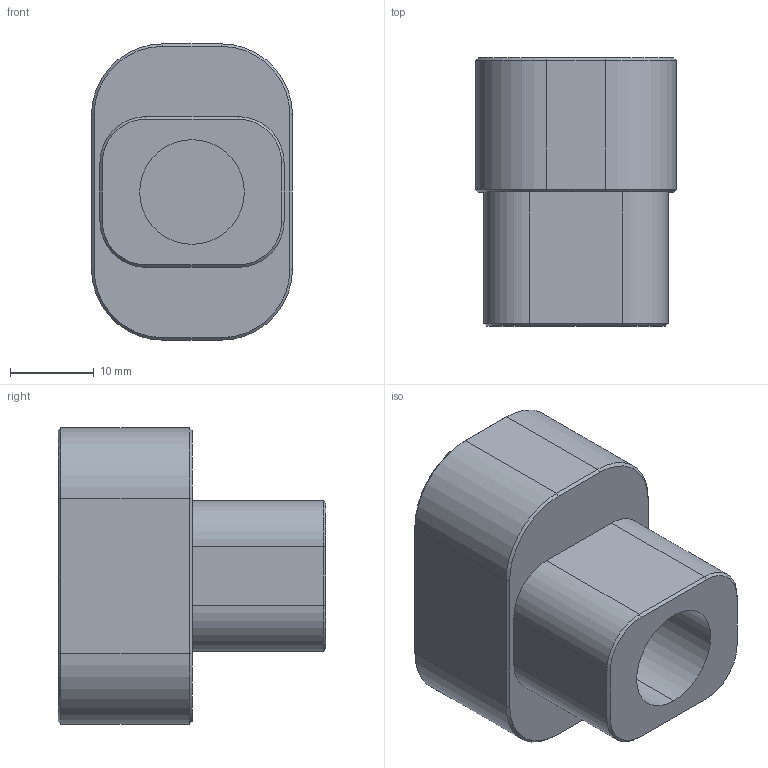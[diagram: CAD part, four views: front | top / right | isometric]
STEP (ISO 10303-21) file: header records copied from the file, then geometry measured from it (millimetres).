
FILE_DESCRIPTION (( 'STEP AP214' ), '1' );
FILE_NAME ('452418.STEP', '2022-05-23T13:11:34', ( '' ), ( '' ), 'SwSTEP 2.0', 'SolidWorks 2021', '' );
FILE_SCHEMA (( 'AUTOMOTIVE_DESIGN' ));
Length unit declared in the file: millimetre
Products named in the file (1): 452418
Bounding box: 24 x 32 x 35.4 mm (x, y, z)
Volume: 12415.6 mm3; surface area: 6431.2 mm2
Topology: 2 solids, 2 shells, 52 faces, 114 edges, 68 vertices
Faces by surface type: plane 26, cylinder 14, cone 12
Entity records: 1497 total; most frequent: DIRECTION 260, CARTESIAN_POINT 235, ORIENTED_EDGE 228, EDGE_CURVE 114, AXIS2_PLACEMENT_3D 93, LINE 74, VECTOR 74, VERTEX_POINT 68
